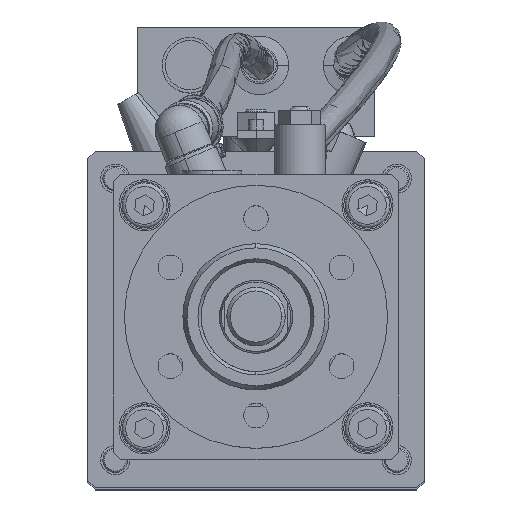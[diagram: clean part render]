
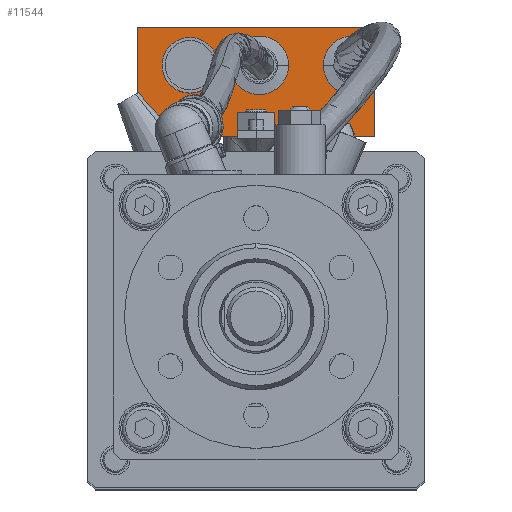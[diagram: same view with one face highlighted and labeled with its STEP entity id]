
A CAD part, top view. The second image highlights one B-rep face of the part: STEP entity #11544.
In plain terms, the highlighted planar face has unit normal (0, 0, 1).
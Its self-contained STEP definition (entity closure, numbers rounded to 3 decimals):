
#385 = FACE_BOUND ( 'NONE', #16671, .T. ) ;
#464 = PLANE ( 'NONE',  #4577 ) ;
#504 = ORIENTED_EDGE ( 'NONE', *, *, #3115, .F. ) ;
#818 = DIRECTION ( 'NONE',  ( 0., 1., 0. ) ) ;
#958 = DIRECTION ( 'NONE',  ( 0., 0., 1. ) ) ;
#1384 = LINE ( 'NONE', #5603, #16032 ) ;
#1499 = AXIS2_PLACEMENT_3D ( 'NONE', #13816, #7096, #8537 ) ;
#1650 = ORIENTED_EDGE ( 'NONE', *, *, #10290, .T. ) ;
#1903 = DIRECTION ( 'NONE',  ( -1., 0., 0. ) ) ;
#2293 = VERTEX_POINT ( 'NONE', #7118 ) ;
#2543 = VERTEX_POINT ( 'NONE', #15074 ) ;
#2786 = CARTESIAN_POINT ( 'NONE',  ( 31.407, 70., -114.257 ) ) ;
#3115 = EDGE_CURVE ( 'NONE', #15324, #2293, #14148, .T. ) ;
#3425 = DIRECTION ( 'NONE',  ( 0., 0., 1. ) ) ;
#3444 = ORIENTED_EDGE ( 'NONE', *, *, #11601, .T. ) ;
#3447 = CARTESIAN_POINT ( 'NONE',  ( -32.486, 80.5, -114.243 ) ) ;
#3718 = VECTOR ( 'NONE', #7640, 1000. ) ;
#3989 = EDGE_CURVE ( 'NONE', #2543, #16454, #15970, .T. ) ;
#4009 = EDGE_LOOP ( 'NONE', ( #5574, #5743 ) ) ;
#4577 = AXIS2_PLACEMENT_3D ( 'NONE', #4598, #3425, #1903 ) ;
#4598 = CARTESIAN_POINT ( 'NONE',  ( -13.925, 47.376, -114.247 ) ) ;
#4754 = AXIS2_PLACEMENT_3D ( 'NONE', #6651, #14524, #818 ) ;
#4792 = EDGE_LOOP ( 'NONE', ( #504, #14227 ) ) ;
#5139 = DIRECTION ( 'NONE',  ( 0., 0., 1. ) ) ;
#5462 = CIRCLE ( 'NONE', #9741, 5. ) ;
#5574 = ORIENTED_EDGE ( 'NONE', *, *, #6744, .F. ) ;
#5595 = VERTEX_POINT ( 'NONE', #16230 ) ;
#5603 = CARTESIAN_POINT ( 'NONE',  ( -32.486, 50.5, -114.243 ) ) ;
#5650 = CARTESIAN_POINT ( 'NONE',  ( 32.514, 80.5, -114.257 ) ) ;
#5743 = ORIENTED_EDGE ( 'NONE', *, *, #13632, .F. ) ;
#6209 = CARTESIAN_POINT ( 'NONE',  ( 32.514, 50.5, -114.257 ) ) ;
#6478 = CARTESIAN_POINT ( 'NONE',  ( 26.407, 70., -114.256 ) ) ;
#6651 = CARTESIAN_POINT ( 'NONE',  ( -18.093, 70., -114.246 ) ) ;
#6744 = EDGE_CURVE ( 'NONE', #14659, #10303, #12750, .T. ) ;
#6843 = VERTEX_POINT ( 'NONE', #2786 ) ;
#6924 = ORIENTED_EDGE ( 'NONE', *, *, #11693, .F. ) ;
#7096 = DIRECTION ( 'NONE',  ( 0., 0., 1. ) ) ;
#7118 = CARTESIAN_POINT ( 'NONE',  ( -4.093, 70., -114.249 ) ) ;
#7602 = CARTESIAN_POINT ( 'NONE',  ( 26.407, 70., -114.256 ) ) ;
#7640 = DIRECTION ( 'NONE',  ( 1., 0., 0. ) ) ;
#7708 = EDGE_CURVE ( 'NONE', #2293, #15324, #12498, .T. ) ;
#8448 = CARTESIAN_POINT ( 'NONE',  ( 0.907, 70., -114.25 ) ) ;
#8537 = DIRECTION ( 'NONE',  ( 0., 1., 0. ) ) ;
#8724 = AXIS2_PLACEMENT_3D ( 'NONE', #13234, #958, #12158 ) ;
#9240 = CIRCLE ( 'NONE', #1499, 6. ) ;
#9438 = DIRECTION ( 'NONE',  ( -1., 0., 0. ) ) ;
#9741 = AXIS2_PLACEMENT_3D ( 'NONE', #6478, #5139, #16063 ) ;
#10290 = EDGE_CURVE ( 'NONE', #11119, #10449, #1384, .T. ) ;
#10303 = VERTEX_POINT ( 'NONE', #12147 ) ;
#10359 = AXIS2_PLACEMENT_3D ( 'NONE', #7602, #14411, #13163 ) ;
#10449 = VERTEX_POINT ( 'NONE', #11734 ) ;
#10518 = DIRECTION ( 'NONE',  ( 0., 1., 0. ) ) ;
#11112 = DIRECTION ( 'NONE',  ( -1., 0., 0. ) ) ;
#11119 = VERTEX_POINT ( 'NONE', #3447 ) ;
#11544 = ADVANCED_FACE ( 'NONE', ( #385, #15352, #14001, #15610 ), #464, .T. ) ;
#11601 = EDGE_CURVE ( 'NONE', #10449, #2543, #17330, .T. ) ;
#11693 = EDGE_CURVE ( 'NONE', #6843, #5595, #5462, .T. ) ;
#11734 = CARTESIAN_POINT ( 'NONE',  ( -32.486, 50.5, -114.243 ) ) ;
#11758 = CARTESIAN_POINT ( 'NONE',  ( 32.514, 50.5, -114.257 ) ) ;
#12072 = CIRCLE ( 'NONE', #10359, 5. ) ;
#12147 = CARTESIAN_POINT ( 'NONE',  ( -18.093, 76., -114.246 ) ) ;
#12158 = DIRECTION ( 'NONE',  ( -1., 0., 0. ) ) ;
#12498 = CIRCLE ( 'NONE', #17083, 5. ) ;
#12625 = LINE ( 'NONE', #5650, #14998 ) ;
#12750 = CIRCLE ( 'NONE', #4754, 6. ) ;
#13089 = EDGE_CURVE ( 'NONE', #5595, #6843, #12072, .T. ) ;
#13163 = DIRECTION ( 'NONE',  ( -1., 0., 0. ) ) ;
#13234 = CARTESIAN_POINT ( 'NONE',  ( 0.907, 70., -114.25 ) ) ;
#13310 = EDGE_LOOP ( 'NONE', ( #13491, #17754, #1650, #3444 ) ) ;
#13491 = ORIENTED_EDGE ( 'NONE', *, *, #3989, .T. ) ;
#13518 = CARTESIAN_POINT ( 'NONE',  ( 5.907, 70., -114.251 ) ) ;
#13578 = DIRECTION ( 'NONE',  ( 0., -1., 0. ) ) ;
#13632 = EDGE_CURVE ( 'NONE', #10303, #14659, #9240, .T. ) ;
#13816 = CARTESIAN_POINT ( 'NONE',  ( -18.093, 70., -114.246 ) ) ;
#13847 = ORIENTED_EDGE ( 'NONE', *, *, #13089, .F. ) ;
#13895 = DIRECTION ( 'NONE',  ( 0., 0., 1. ) ) ;
#14001 = FACE_OUTER_BOUND ( 'NONE', #13310, .T. ) ;
#14148 = CIRCLE ( 'NONE', #8724, 5. ) ;
#14227 = ORIENTED_EDGE ( 'NONE', *, *, #7708, .F. ) ;
#14411 = DIRECTION ( 'NONE',  ( 0., 0., 1. ) ) ;
#14503 = CARTESIAN_POINT ( 'NONE',  ( 32.514, 80.5, -114.257 ) ) ;
#14524 = DIRECTION ( 'NONE',  ( 0., 0., 1. ) ) ;
#14659 = VERTEX_POINT ( 'NONE', #17605 ) ;
#14823 = VECTOR ( 'NONE', #10518, 1000. ) ;
#14998 = VECTOR ( 'NONE', #11112, 1000. ) ;
#15022 = EDGE_CURVE ( 'NONE', #16454, #11119, #12625, .T. ) ;
#15074 = CARTESIAN_POINT ( 'NONE',  ( 32.514, 50.5, -114.257 ) ) ;
#15324 = VERTEX_POINT ( 'NONE', #13518 ) ;
#15352 = FACE_BOUND ( 'NONE', #4792, .T. ) ;
#15610 = FACE_BOUND ( 'NONE', #4009, .T. ) ;
#15970 = LINE ( 'NONE', #6209, #14823 ) ;
#16032 = VECTOR ( 'NONE', #13578, 1000. ) ;
#16063 = DIRECTION ( 'NONE',  ( -1., 0., 0. ) ) ;
#16230 = CARTESIAN_POINT ( 'NONE',  ( 21.407, 70., -114.255 ) ) ;
#16454 = VERTEX_POINT ( 'NONE', #14503 ) ;
#16671 = EDGE_LOOP ( 'NONE', ( #6924, #13847 ) ) ;
#17083 = AXIS2_PLACEMENT_3D ( 'NONE', #8448, #13895, #9438 ) ;
#17330 = LINE ( 'NONE', #11758, #3718 ) ;
#17605 = CARTESIAN_POINT ( 'NONE',  ( -18.093, 64., -114.246 ) ) ;
#17754 = ORIENTED_EDGE ( 'NONE', *, *, #15022, .T. ) ;
